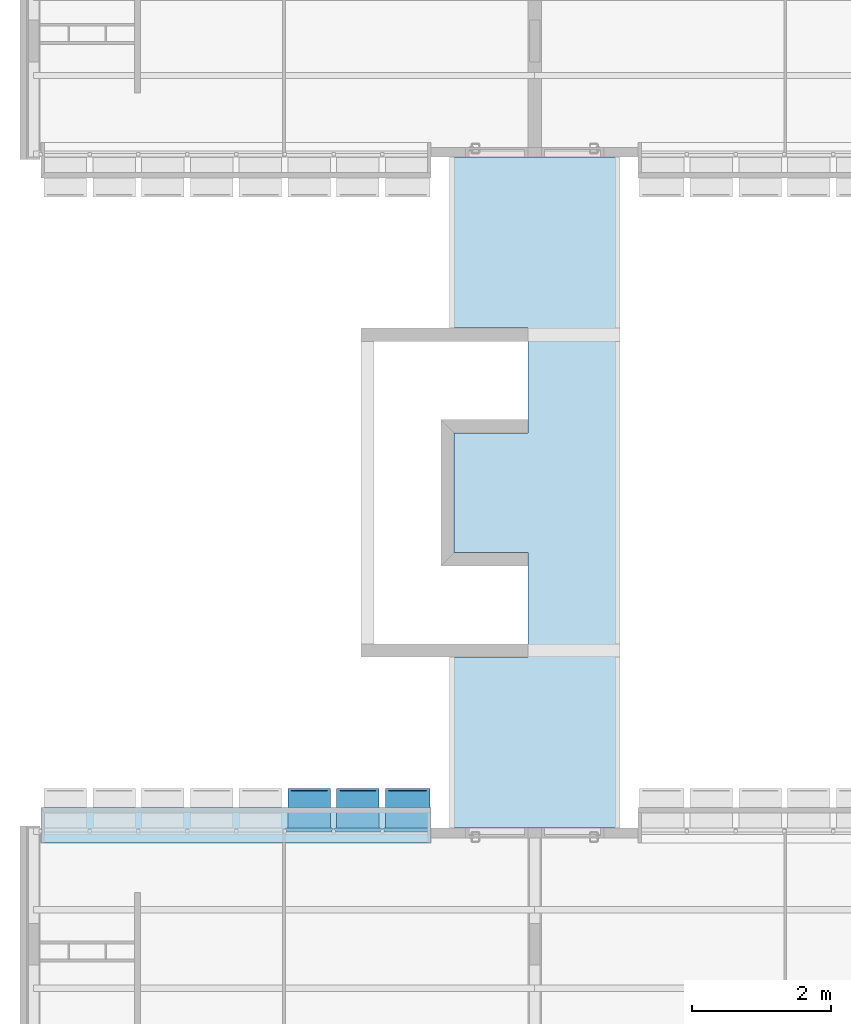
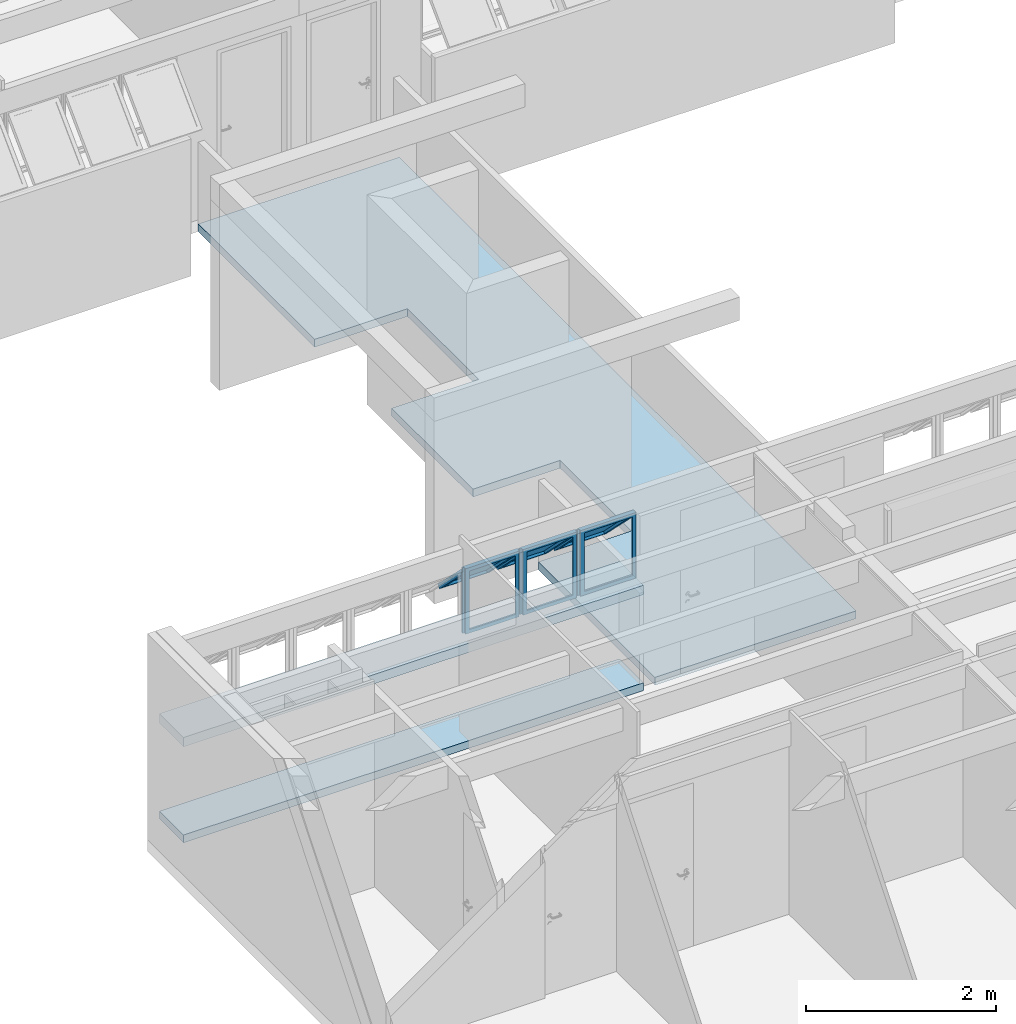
# One storey, part 8 of 40: 3 plates, 3 slabs, 1 element without a shape of its own.
"""IFC4 building model written with IfcOpenShell, lengths in millimetres."""

from ifc_helpers import new_model, entity, si_unit, converted_unit, derived_unit, direction, frame, origin_with_axes, place, context, subcontext, project, spatial, line, indexed_curve, outline, extrude, polygons, source, transform, mapped, material, layer, layer_set, layer_usage, constituent, constituent_set, type_object, element, aggregate, save


model = new_model("IFC4")

# Units and contexts
model_context = context("Model", 3, precision=0.01, world=origin_with_axes(), true_north=direction((0.0, 1.0)))
body_context = subcontext(model_context, "Body", "Model", "MODEL_VIEW")
ifc_project = project(units=[si_unit("LENGTHUNIT", "METRE", prefix="MILLI"), si_unit("AREAUNIT", "SQUARE_METRE"), si_unit("VOLUMEUNIT", "CUBIC_METRE"), converted_unit("PLANEANGLEUNIT", "DEGREE", entity("IfcPlaneAngleMeasure", 0.0174532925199), si_unit("PLANEANGLEUNIT", "RADIAN"), dimensions=[0, 0, 0, 0, 0, 0, 0]), converted_unit("TIMEUNIT", "Year", entity("IfcTimeMeasure", 31556926.0), si_unit("TIMEUNIT", "SECOND"), dimensions=[0, 0, 1, 0, 0, 0, 0]), si_unit("MASSUNIT", "GRAM", prefix="KILO"), si_unit("THERMODYNAMICTEMPERATUREUNIT", "DEGREE_CELSIUS"), si_unit("LUMINOUSINTENSITYUNIT", "LUMEN"), si_unit("ENERGYUNIT", "JOULE", prefix="MEGA"), derived_unit("THERMALCONDUCTANCEUNIT", [(si_unit("POWERUNIT", "WATT"), 1), (si_unit("LENGTHUNIT", "METRE"), -1), (si_unit("THERMODYNAMICTEMPERATUREUNIT", "KELVIN"), -1)]), derived_unit("SPECIFICHEATCAPACITYUNIT", [(si_unit("ENERGYUNIT", "JOULE"), 1), (si_unit("MASSUNIT", "GRAM", prefix="KILO"), -1), (si_unit("THERMODYNAMICTEMPERATUREUNIT", "KELVIN"), -1)]), derived_unit("MASSDENSITYUNIT", [(si_unit("MASSUNIT", "GRAM", prefix="KILO"), 1), (si_unit("VOLUMEUNIT", "CUBIC_METRE"), -1)])], contexts=[model_context])

# Site, building, storey
site_placement = place(None, origin_with_axes())
site = spatial("IfcSite", under=ifc_project, at=site_placement, Name="Local", CompositionType="ELEMENT")
building_placement = place(site_placement, origin_with_axes())
building = spatial("IfcBuilding", under=site, at=building_placement, Name="Construção", CompositionType="ELEMENT")
storey_placement = place(building_placement, frame((0.0, 0.0, 5300.0), z_axis=(0.0, 0.0, 1.0), x_axis=(1.0, 0.0, 0.0)))
storey = spatial("IfcBuildingStorey", under=building, at=storey_placement, Name="Terceiro Pavimento", CompositionType="ELEMENT", Elevation=5300.0)

# Slabs
ifc_material_1 = material(Name="Concreto Armado Moldado in Loco - Estrutural")
ifc_layer_1 = layer(ifc_material_1, 120.0, ventilated="UNKNOWN", Name="Concreto Armado Moldado in Loco - Estrutural")
ifc_layer_set_1 = layer_set([ifc_layer_1], Name="Concreto Armado Moldado in Loco - Estrutural 120")
ifc_layer_usage_1 = layer_usage(ifc_layer_set_1, "AXIS3", "NEGATIVE", 120.0)
slab_type_1 = type_object("IfcSlabType", Name="Concreto Armado Moldado in Loco - Estrutural 120", PredefinedType="FLOOR")
slab_1_placement = place(storey_placement, frame((300.0, 8564.99999866, 1355.0), z_axis=(0.0, 0.0, 1.0), x_axis=(1.0, 0.0, 0.0)))
element("IfcSlab", 1, at=slab_1_placement, inside=storey, type_object=slab_type_1, material=ifc_layer_usage_1, Name="APTO9-LAJE-003", PredefinedType="FLOOR", context=body_context, shape_type="SweptSolid", body=[
    extrude(outline(indexed_curve([(0.0, 0.0), (0.0, -510.0), (5600.0, -510.0), (5600.0, 0.0)], segments=[line(1, 2, 3, 4, 1)])), frame((0.0, 0.0, -120.0), z_axis=(0.0, 0.0, 1.0), x_axis=(1.0, 0.0, 0.0)), (0.0, 0.0, 1.0), 120.0),
])
ifc_layer_2 = layer(ifc_material_1, 100.0, ventilated="UNKNOWN", Name="Concreto Armado Moldado in Loco - Estrutural")
ifc_layer_set_2 = layer_set([ifc_layer_2], Name="Concreto Armado Moldado in Loco - Estrutural 100")
ifc_layer_usage_2 = layer_usage(ifc_layer_set_2, "AXIS3", "NEGATIVE", 100.0)
slab_type_2 = type_object("IfcSlabType", Name="Concreto Armado Moldado in Loco - Estrutural 100", PredefinedType="FLOOR")
slab_2_placement = place(storey_placement, frame((6229.99993205, 13940.0000635, -150.0), z_axis=(0.0, 0.0, 1.0), x_axis=(1.0, 0.0, 0.0)))
element("IfcSlab", 2, at=slab_2_placement, inside=storey, type_object=slab_type_2, material=ifc_layer_usage_2, Name="CIRC3-LAJE-008", PredefinedType="FLOOR", context=body_context, shape_type="SweptSolid", body=[
    extrude(outline(indexed_curve([(0.0, 0.0), (0.0, -1720.00012696), (1060.0001283, -1720.00012696), (1060.0001283, -3220.00011086), (-69.9999320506, -3220.00011086), (-69.9999320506, -5675.00006348), (2380.00006795, -5675.00006348), (2380.00006795, 3954.99993652), (-69.9999320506, 3954.99993652), (-69.9999320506, 1499.99998391), (1060.0001283, 1499.99998391), (1060.0001283, 1309.99988645), (1060.0001283, 0.0)], segments=[line(1, 2, 3, 4, 5, 6, 7, 8, 9, 10, 11, 12, 13, 1)])), origin_with_axes(), (0.0, 0.0, 1.0), 100.0),
])
ifc_layer_usage_3 = layer_usage(ifc_layer_set_2, "AXIS3", "NEGATIVE", 100.0)
slab_3_placement = place(storey_placement, frame((300.0, 8564.99999866, 100.0), z_axis=(0.0, 0.0, 1.0), x_axis=(1.0, 0.0, 0.0)))
element("IfcSlab", 3, at=slab_3_placement, inside=storey, type_object=slab_type_2, material=ifc_layer_usage_3, Name="APTO9-LAJE-004", PredefinedType="FLOOR", context=body_context, shape_type="SweptSolid", body=[
    extrude(outline(indexed_curve([(0.0, 0.0), (0.0, -510.0), (5600.0, -510.0), (5600.0, 0.0)], segments=[line(1, 2, 3, 4, 1)])), frame((0.0, 0.0, -100.0), z_axis=(0.0, 0.0, 1.0), x_axis=(1.0, 0.0, 0.0)), (0.0, 0.0, 1.0), 100.0),
])

# Window, plates
window_type = type_object("IfcWindowType", Name="Tipo de Parede Cortina", PartitioningType="NOTDEFINED", PredefinedType="NOTDEFINED")
window_placement = place(storey_placement, frame((2750.0, 8250.0, 1355.00007107), z_axis=(0.0, 0.0, 1.0), x_axis=(1.0, 0.0, 0.0)))
window = element("IfcWindow", 4, at=window_placement, inside=storey, type_object=window_type, Name="APTO9-JANELA-000", PredefinedType="NOTDEFINED")
ifc_material_2 = material(Name="Alumínio")
ifc_constituent_1 = constituent(ifc_material_2, Name="Alumínio")
ifc_material_3 = material(Name="Vidro")
ifc_constituent_2 = constituent(ifc_material_3, Name="Vidro")
ifc_constituent_set_1 = constituent_set(constituents=[ifc_constituent_1, ifc_constituent_2])
plate_type_1 = type_object("IfcPlateType", Name="Painel Principal 690 x 845 x 20", PredefinedType="CURTAIN_PANEL")
shared_shape_1 = source(origin_with_axes(), body_context, "Body", "Tessellation", [
    polygons([(-25.0000036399, 0.0, -40.0), (-25.0000036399, 0.0, -35.0), (-674.999997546, 0.0, -35.0), (-674.999997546, 0.0, -40.0), (-70.0000036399, 45.0, -40.0), (-70.0000036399, 45.0, -35.0), (-629.999997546, 45.0, -35.0), (-629.999997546, 45.0, -40.0)], [[[1, 2, 3, 4]], [[5, 6, 2, 1]], [[2, 6, 7, 3]], [[4, 3, 7, 8]], [[1, 4, 8, 5]], [[8, 7, 6, 5]]], closed=True),
    polygons([(-674.999997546, 0.0, -40.0), (-674.999997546, 0.0, -35.0), (-674.999997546, 844.999891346, -35.0), (-674.999997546, 844.999891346, -40.0), (-629.999997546, 45.0, -40.0), (-629.999997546, 45.0, -35.0), (-629.999997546, 799.999891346, -35.0), (-629.999997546, 799.999891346, -40.0)], [[[1, 2, 3, 4]], [[5, 6, 2, 1]], [[2, 6, 7, 3]], [[4, 3, 7, 8]], [[1, 4, 8, 5]], [[8, 7, 6, 5]]], closed=True),
    polygons([(-25.0000036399, 844.999891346, -40.0), (-25.0000036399, 844.999891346, -35.0), (-70.0000036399, 799.999891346, -35.0), (-70.0000036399, 799.999891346, -40.0), (-674.999997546, 844.999891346, -40.0), (-674.999997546, 844.999891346, -35.0), (-629.999997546, 799.999891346, -35.0), (-629.999997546, 799.999891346, -40.0)], [[[1, 2, 3, 4]], [[5, 6, 2, 1]], [[2, 6, 7, 3]], [[4, 3, 7, 8]], [[1, 4, 8, 5]], [[8, 7, 6, 5]]], closed=True),
    polygons([(-25.0000036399, 0.0, -40.0), (-25.0000036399, 0.0, -35.0), (-70.0000036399, 45.0, -35.0), (-70.0000036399, 45.0, -40.0), (-25.0000036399, 844.999891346, -40.0), (-25.0000036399, 844.999891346, -35.0), (-70.0000036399, 799.999891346, -35.0), (-70.0000036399, 799.999891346, -40.0)], [[[1, 2, 3, 4]], [[5, 6, 2, 1]], [[2, 6, 7, 3]], [[4, 3, 7, 8]], [[1, 4, 8, 5]], [[8, 7, 6, 5]]], closed=True),
    polygons([(-25.0000036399, 0.0, -35.0), (-25.0000036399, 0.0, 15.0), (-674.999997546, 0.0, 15.0), (-674.999997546, 0.0, -35.0), (-45.0000036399, 20.0, -35.0), (-45.0000036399, 20.0, 15.0), (-654.999997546, 20.0, 15.0), (-654.999997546, 20.0, -35.0)], [[[1, 2, 3, 4]], [[5, 6, 2, 1]], [[2, 6, 7, 3]], [[4, 3, 7, 8]], [[1, 4, 8, 5]], [[8, 7, 6, 5]]], closed=True),
    polygons([(-674.999997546, 0.0, -35.0), (-674.999997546, 0.0, 15.0), (-674.999997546, 844.999891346, 15.0), (-674.999997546, 844.999891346, -35.0), (-654.999997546, 20.0, -35.0), (-654.999997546, 20.0, 15.0), (-654.999997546, 824.999891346, 15.0), (-654.999997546, 824.999891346, -35.0)], [[[1, 2, 3, 4]], [[5, 6, 2, 1]], [[2, 6, 7, 3]], [[4, 3, 7, 8]], [[1, 4, 8, 5]], [[8, 7, 6, 5]]], closed=True),
    polygons([(-25.0000036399, 844.999891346, -35.0), (-25.0000036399, 844.999891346, 15.0), (-45.0000036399, 824.999891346, 15.0), (-45.0000036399, 824.999891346, -35.0), (-674.999997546, 844.999891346, -35.0), (-674.999997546, 844.999891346, 15.0), (-654.999997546, 824.999891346, 15.0), (-654.999997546, 824.999891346, -35.0)], [[[1, 2, 3, 4]], [[5, 6, 2, 1]], [[2, 6, 7, 3]], [[4, 3, 7, 8]], [[1, 4, 8, 5]], [[8, 7, 6, 5]]], closed=True),
    polygons([(-25.0000036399, 0.0, -35.0), (-25.0000036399, 0.0, 15.0), (-45.0000036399, 20.0, 15.0), (-45.0000036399, 20.0, -35.0), (-25.0000036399, 844.999891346, -35.0), (-25.0000036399, 844.999891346, 15.0), (-45.0000036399, 824.999891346, 15.0), (-45.0000036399, 824.999891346, -35.0)], [[[1, 2, 3, 4]], [[5, 6, 2, 1]], [[2, 6, 7, 3]], [[4, 3, 7, 8]], [[1, 4, 8, 5]], [[8, 7, 6, 5]]], closed=True),
    polygons([(-694.999995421, 0.0, -10.0), (-694.999995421, 0.0, 10.0), (-694.999995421, 844.999891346, 10.0), (-694.999995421, 844.999891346, -10.0), (-674.999997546, 0.0, -10.0), (-674.999997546, 0.0, 10.0), (-674.999997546, 844.999891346, 10.0), (-674.999997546, 844.999891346, -10.0)], [[[1, 2, 3, 4]], [[5, 6, 2, 1]], [[2, 6, 7, 3]], [[4, 3, 7, 8]], [[1, 4, 8, 5]], [[8, 7, 6, 5]]], closed=True),
    polygons([(-5.00000576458, 844.999891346, -10.0), (-5.00000576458, 844.999891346, 10.0), (-5.00000576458, 0.0, 10.0), (-5.00000576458, 0.0, -10.0), (-25.0000036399, 844.999891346, -10.0), (-25.0000036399, 844.999891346, 10.0), (-25.0000036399, 0.0, 10.0), (-25.0000036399, 0.0, -10.0)], [[[1, 2, 3, 4]], [[5, 6, 2, 1]], [[2, 6, 7, 3]], [[4, 3, 7, 8]], [[1, 4, 8, 5]], [[8, 7, 6, 5]]], closed=True),
    polygons([(-90.0000036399, 252.243475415, 517.045737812), (-90.0000036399, 291.13434838, 555.936610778), (-90.0000036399, 796.715620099, 50.3553390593), (-90.0000036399, 757.824747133, 11.4644660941), (-45.0000036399, 220.423670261, 548.865542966), (-45.0000036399, 259.314543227, 587.756415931), (-45.0000036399, 828.535425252, 18.5355339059), (-45.0000036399, 789.644552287, -20.3553390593)], [[[1, 2, 3, 4]], [[5, 6, 2, 1]], [[2, 6, 7, 3]], [[4, 3, 7, 8]], [[1, 4, 8, 5]], [[8, 7, 6, 5]]], closed=True),
    polygons([(-654.999997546, 220.423670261, 548.865542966), (-654.999997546, 259.314543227, 587.756415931), (-654.999997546, 828.535425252, 18.5355339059), (-654.999997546, 789.644552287, -20.3553390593), (-609.999997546, 252.243475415, 517.045737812), (-609.999997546, 291.13434838, 555.936610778), (-609.999997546, 796.715620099, 50.3553390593), (-609.999997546, 757.824747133, 11.4644660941)], [[[1, 2, 3, 4]], [[5, 6, 2, 1]], [[2, 6, 7, 3]], [[4, 3, 7, 8]], [[1, 4, 8, 5]], [[8, 7, 6, 5]]], closed=True),
    polygons([(-654.999997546, 220.423670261, 548.865542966), (-654.999997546, 259.314543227, 587.756415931), (-609.999997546, 291.13434838, 555.936610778), (-609.999997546, 252.243475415, 517.045737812), (-45.0000036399, 220.423670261, 548.865542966), (-45.0000036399, 259.314543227, 587.756415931), (-90.0000036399, 291.13434838, 555.936610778), (-90.0000036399, 252.243475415, 517.045737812)], [[[1, 2, 3, 4]], [[5, 6, 2, 1]], [[2, 6, 7, 3]], [[4, 3, 7, 8]], [[1, 4, 8, 5]], [[8, 7, 6, 5]]], closed=True),
    polygons([(-45.0000036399, 789.644552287, -20.3553390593), (-45.0000036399, 828.535425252, 18.5355339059), (-90.0000036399, 796.715620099, 50.3553390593), (-90.0000036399, 757.824747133, 11.4644660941), (-654.999997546, 789.644552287, -20.3553390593), (-654.999997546, 828.535425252, 18.5355339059), (-609.999997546, 796.715620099, 50.3553390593), (-609.999997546, 757.824747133, 11.4644660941)], [[[1, 2, 3, 4]], [[5, 6, 2, 1]], [[2, 6, 7, 3]], [[4, 3, 7, 8]], [[1, 4, 8, 5]], [[8, 7, 6, 5]]], closed=True),
    polygons([(-90.0000036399, 272.749572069, 537.551834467), (-90.0000036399, 284.063280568, 548.865542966), (-609.999997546, 284.063280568, 548.865542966), (-609.999997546, 272.749572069, 537.551834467), (-90.0000036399, 778.330843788, 31.9705627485), (-90.0000036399, 789.644552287, 43.2842712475), (-609.999997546, 789.644552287, 43.2842712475), (-609.999997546, 778.330843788, 31.9705627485)], [[[1, 2, 3, 4]], [[5, 6, 2, 1]], [[2, 6, 7, 3]], [[4, 3, 7, 8]], [[1, 4, 8, 5]], [[8, 7, 6, 5]]], closed=True),
])
plate_1_placement = place(window_placement, frame((2100.0, 0.0, 422.499964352), z_axis=(0.0, 0.0, 1.0), x_axis=(-1.0, 0.0, 0.0)))
plate_1 = element("IfcPlate", 5, at=plate_1_placement, type_object=plate_type_1, material=ifc_constituent_set_1, Name="APTO9-Painel-Prin-029", PredefinedType="CURTAIN_PANEL", context=body_context, shape_type="MappedRepresentation", body=[
    mapped(shared_shape_1, transform((350.0, 0.0, -422.499964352), x_axis=(1.0, 0.0, 0.0), y_axis=(0.0, 0.0, 1.0), z_axis=(0.0, -1.0, 0.0))),
])
ifc_constituent_3 = constituent(ifc_material_2, Name="Alumínio")
ifc_constituent_4 = constituent(ifc_material_3, Name="Vidro")
ifc_constituent_set_2 = constituent_set(constituents=[ifc_constituent_3, ifc_constituent_4])
shared_shape_2 = source(origin_with_axes(), body_context, "Body", "Tessellation", [
    polygons([(-25.0000036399, 0.0, -40.0), (-25.0000036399, 0.0, -35.0), (-674.999997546, 0.0, -35.0), (-674.999997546, 0.0, -40.0), (-70.0000036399, 45.0, -40.0), (-70.0000036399, 45.0, -35.0), (-629.999997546, 45.0, -35.0), (-629.999997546, 45.0, -40.0)], [[[1, 2, 3, 4]], [[5, 6, 2, 1]], [[2, 6, 7, 3]], [[4, 3, 7, 8]], [[1, 4, 8, 5]], [[8, 7, 6, 5]]], closed=True),
    polygons([(-674.999997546, 0.0, -40.0), (-674.999997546, 0.0, -35.0), (-674.999997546, 844.999891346, -35.0), (-674.999997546, 844.999891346, -40.0), (-629.999997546, 45.0, -40.0), (-629.999997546, 45.0, -35.0), (-629.999997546, 799.999891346, -35.0), (-629.999997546, 799.999891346, -40.0)], [[[1, 2, 3, 4]], [[5, 6, 2, 1]], [[2, 6, 7, 3]], [[4, 3, 7, 8]], [[1, 4, 8, 5]], [[8, 7, 6, 5]]], closed=True),
    polygons([(-25.0000036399, 844.999891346, -40.0), (-25.0000036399, 844.999891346, -35.0), (-70.0000036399, 799.999891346, -35.0), (-70.0000036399, 799.999891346, -40.0), (-674.999997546, 844.999891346, -40.0), (-674.999997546, 844.999891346, -35.0), (-629.999997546, 799.999891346, -35.0), (-629.999997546, 799.999891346, -40.0)], [[[1, 2, 3, 4]], [[5, 6, 2, 1]], [[2, 6, 7, 3]], [[4, 3, 7, 8]], [[1, 4, 8, 5]], [[8, 7, 6, 5]]], closed=True),
    polygons([(-25.0000036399, 0.0, -40.0), (-25.0000036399, 0.0, -35.0), (-70.0000036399, 45.0, -35.0), (-70.0000036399, 45.0, -40.0), (-25.0000036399, 844.999891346, -40.0), (-25.0000036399, 844.999891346, -35.0), (-70.0000036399, 799.999891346, -35.0), (-70.0000036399, 799.999891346, -40.0)], [[[1, 2, 3, 4]], [[5, 6, 2, 1]], [[2, 6, 7, 3]], [[4, 3, 7, 8]], [[1, 4, 8, 5]], [[8, 7, 6, 5]]], closed=True),
    polygons([(-25.0000036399, 0.0, -35.0), (-25.0000036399, 0.0, 15.0), (-674.999997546, 0.0, 15.0), (-674.999997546, 0.0, -35.0), (-45.0000036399, 20.0, -35.0), (-45.0000036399, 20.0, 15.0), (-654.999997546, 20.0, 15.0), (-654.999997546, 20.0, -35.0)], [[[1, 2, 3, 4]], [[5, 6, 2, 1]], [[2, 6, 7, 3]], [[4, 3, 7, 8]], [[1, 4, 8, 5]], [[8, 7, 6, 5]]], closed=True),
    polygons([(-674.999997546, 0.0, -35.0), (-674.999997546, 0.0, 15.0), (-674.999997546, 844.999891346, 15.0), (-674.999997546, 844.999891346, -35.0), (-654.999997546, 20.0, -35.0), (-654.999997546, 20.0, 15.0), (-654.999997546, 824.999891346, 15.0), (-654.999997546, 824.999891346, -35.0)], [[[1, 2, 3, 4]], [[5, 6, 2, 1]], [[2, 6, 7, 3]], [[4, 3, 7, 8]], [[1, 4, 8, 5]], [[8, 7, 6, 5]]], closed=True),
    polygons([(-25.0000036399, 844.999891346, -35.0), (-25.0000036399, 844.999891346, 15.0), (-45.0000036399, 824.999891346, 15.0), (-45.0000036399, 824.999891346, -35.0), (-674.999997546, 844.999891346, -35.0), (-674.999997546, 844.999891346, 15.0), (-654.999997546, 824.999891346, 15.0), (-654.999997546, 824.999891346, -35.0)], [[[1, 2, 3, 4]], [[5, 6, 2, 1]], [[2, 6, 7, 3]], [[4, 3, 7, 8]], [[1, 4, 8, 5]], [[8, 7, 6, 5]]], closed=True),
    polygons([(-25.0000036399, 0.0, -35.0), (-25.0000036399, 0.0, 15.0), (-45.0000036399, 20.0, 15.0), (-45.0000036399, 20.0, -35.0), (-25.0000036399, 844.999891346, -35.0), (-25.0000036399, 844.999891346, 15.0), (-45.0000036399, 824.999891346, 15.0), (-45.0000036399, 824.999891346, -35.0)], [[[1, 2, 3, 4]], [[5, 6, 2, 1]], [[2, 6, 7, 3]], [[4, 3, 7, 8]], [[1, 4, 8, 5]], [[8, 7, 6, 5]]], closed=True),
    polygons([(-694.999995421, 0.0, -10.0), (-694.999995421, 0.0, 10.0), (-694.999995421, 844.999891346, 10.0), (-694.999995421, 844.999891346, -10.0), (-674.999997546, 0.0, -10.0), (-674.999997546, 0.0, 10.0), (-674.999997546, 844.999891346, 10.0), (-674.999997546, 844.999891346, -10.0)], [[[1, 2, 3, 4]], [[5, 6, 2, 1]], [[2, 6, 7, 3]], [[4, 3, 7, 8]], [[1, 4, 8, 5]], [[8, 7, 6, 5]]], closed=True),
    polygons([(-5.00000576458, 844.999891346, -10.0), (-5.00000576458, 844.999891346, 10.0), (-5.00000576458, 0.0, 10.0), (-5.00000576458, 0.0, -10.0), (-25.0000036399, 844.999891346, -10.0), (-25.0000036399, 844.999891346, 10.0), (-25.0000036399, 0.0, 10.0), (-25.0000036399, 0.0, -10.0)], [[[1, 2, 3, 4]], [[5, 6, 2, 1]], [[2, 6, 7, 3]], [[4, 3, 7, 8]], [[1, 4, 8, 5]], [[8, 7, 6, 5]]], closed=True),
    polygons([(-90.0000036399, 252.243475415, 517.045737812), (-90.0000036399, 291.13434838, 555.936610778), (-90.0000036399, 796.715620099, 50.3553390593), (-90.0000036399, 757.824747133, 11.4644660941), (-45.0000036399, 220.423670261, 548.865542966), (-45.0000036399, 259.314543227, 587.756415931), (-45.0000036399, 828.535425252, 18.5355339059), (-45.0000036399, 789.644552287, -20.3553390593)], [[[1, 2, 3, 4]], [[5, 6, 2, 1]], [[2, 6, 7, 3]], [[4, 3, 7, 8]], [[1, 4, 8, 5]], [[8, 7, 6, 5]]], closed=True),
    polygons([(-654.999997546, 220.423670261, 548.865542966), (-654.999997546, 259.314543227, 587.756415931), (-654.999997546, 828.535425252, 18.5355339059), (-654.999997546, 789.644552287, -20.3553390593), (-609.999997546, 252.243475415, 517.045737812), (-609.999997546, 291.13434838, 555.936610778), (-609.999997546, 796.715620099, 50.3553390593), (-609.999997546, 757.824747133, 11.4644660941)], [[[1, 2, 3, 4]], [[5, 6, 2, 1]], [[2, 6, 7, 3]], [[4, 3, 7, 8]], [[1, 4, 8, 5]], [[8, 7, 6, 5]]], closed=True),
    polygons([(-654.999997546, 220.423670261, 548.865542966), (-654.999997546, 259.314543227, 587.756415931), (-609.999997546, 291.13434838, 555.936610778), (-609.999997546, 252.243475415, 517.045737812), (-45.0000036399, 220.423670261, 548.865542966), (-45.0000036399, 259.314543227, 587.756415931), (-90.0000036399, 291.13434838, 555.936610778), (-90.0000036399, 252.243475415, 517.045737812)], [[[1, 2, 3, 4]], [[5, 6, 2, 1]], [[2, 6, 7, 3]], [[4, 3, 7, 8]], [[1, 4, 8, 5]], [[8, 7, 6, 5]]], closed=True),
    polygons([(-45.0000036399, 789.644552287, -20.3553390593), (-45.0000036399, 828.535425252, 18.5355339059), (-90.0000036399, 796.715620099, 50.3553390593), (-90.0000036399, 757.824747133, 11.4644660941), (-654.999997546, 789.644552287, -20.3553390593), (-654.999997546, 828.535425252, 18.5355339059), (-609.999997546, 796.715620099, 50.3553390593), (-609.999997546, 757.824747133, 11.4644660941)], [[[1, 2, 3, 4]], [[5, 6, 2, 1]], [[2, 6, 7, 3]], [[4, 3, 7, 8]], [[1, 4, 8, 5]], [[8, 7, 6, 5]]], closed=True),
    polygons([(-90.0000036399, 272.749572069, 537.551834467), (-90.0000036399, 284.063280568, 548.865542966), (-609.999997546, 284.063280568, 548.865542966), (-609.999997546, 272.749572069, 537.551834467), (-90.0000036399, 778.330843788, 31.9705627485), (-90.0000036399, 789.644552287, 43.2842712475), (-609.999997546, 789.644552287, 43.2842712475), (-609.999997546, 778.330843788, 31.9705627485)], [[[1, 2, 3, 4]], [[5, 6, 2, 1]], [[2, 6, 7, 3]], [[4, 3, 7, 8]], [[1, 4, 8, 5]], [[8, 7, 6, 5]]], closed=True),
])
plate_2_placement = place(window_placement, frame((1400.0, 0.0, 422.499964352), z_axis=(0.0, 0.0, 1.0), x_axis=(-1.0, 0.0, 0.0)))
plate_2 = element("IfcPlate", 6, at=plate_2_placement, type_object=plate_type_1, material=ifc_constituent_set_2, Name="APTO9-Painel-Prin-025", PredefinedType="CURTAIN_PANEL", context=body_context, shape_type="MappedRepresentation", body=[
    mapped(shared_shape_2, transform((350.0, 0.0, -422.499964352), x_axis=(1.0, 0.0, 0.0), y_axis=(0.0, 0.0, 1.0), z_axis=(0.0, -1.0, 0.0))),
])
ifc_constituent_5 = constituent(ifc_material_2, Name="Alumínio")
ifc_constituent_6 = constituent(ifc_material_3, Name="Vidro")
ifc_constituent_set_3 = constituent_set(constituents=[ifc_constituent_5, ifc_constituent_6])
plate_type_2 = type_object("IfcPlateType", Name="Painel Principal 695 x 845 x 20", PredefinedType="CURTAIN_PANEL")
shared_shape_3 = source(origin_with_axes(), body_context, "Body", "Tessellation", [
    polygons([(-25.0000062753, 0.0, -40.0), (-25.0000062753, 0.0, -35.0), (-699.999999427, 0.0, -35.0), (-699.999999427, 0.0, -40.0), (-70.0000062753, 45.0, -40.0), (-70.0000062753, 45.0, -35.0), (-654.999999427, 45.0, -35.0), (-654.999999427, 45.0, -40.0)], [[[1, 2, 3, 4]], [[5, 6, 2, 1]], [[2, 6, 7, 3]], [[4, 3, 7, 8]], [[1, 4, 8, 5]], [[8, 7, 6, 5]]], closed=True),
    polygons([(-699.999999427, 0.0, -40.0), (-699.999999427, 0.0, -35.0), (-699.999999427, 844.999980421, -35.0), (-699.999999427, 844.999980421, -40.0), (-654.999999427, 45.0, -40.0), (-654.999999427, 45.0, -35.0), (-654.999999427, 799.999980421, -35.0), (-654.999999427, 799.999980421, -40.0)], [[[1, 2, 3, 4]], [[5, 6, 2, 1]], [[2, 6, 7, 3]], [[4, 3, 7, 8]], [[1, 4, 8, 5]], [[8, 7, 6, 5]]], closed=True),
    polygons([(-25.0000062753, 844.999980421, -40.0), (-25.0000062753, 844.999980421, -35.0), (-70.0000062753, 799.999980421, -35.0), (-70.0000062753, 799.999980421, -40.0), (-699.999999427, 844.999980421, -40.0), (-699.999999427, 844.999980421, -35.0), (-654.999999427, 799.999980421, -35.0), (-654.999999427, 799.999980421, -40.0)], [[[1, 2, 3, 4]], [[5, 6, 2, 1]], [[2, 6, 7, 3]], [[4, 3, 7, 8]], [[1, 4, 8, 5]], [[8, 7, 6, 5]]], closed=True),
    polygons([(-25.0000062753, 0.0, -40.0), (-25.0000062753, 0.0, -35.0), (-70.0000062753, 45.0, -35.0), (-70.0000062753, 45.0, -40.0), (-25.0000062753, 844.999980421, -40.0), (-25.0000062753, 844.999980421, -35.0), (-70.0000062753, 799.999980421, -35.0), (-70.0000062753, 799.999980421, -40.0)], [[[1, 2, 3, 4]], [[5, 6, 2, 1]], [[2, 6, 7, 3]], [[4, 3, 7, 8]], [[1, 4, 8, 5]], [[8, 7, 6, 5]]], closed=True),
    polygons([(-25.0000062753, 0.0, -35.0), (-25.0000062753, 0.0, 15.0), (-699.999999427, 0.0, 15.0), (-699.999999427, 0.0, -35.0), (-45.0000062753, 20.0, -35.0), (-45.0000062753, 20.0, 15.0), (-679.999999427, 20.0, 15.0), (-679.999999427, 20.0, -35.0)], [[[1, 2, 3, 4]], [[5, 6, 2, 1]], [[2, 6, 7, 3]], [[4, 3, 7, 8]], [[1, 4, 8, 5]], [[8, 7, 6, 5]]], closed=True),
    polygons([(-699.999999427, 0.0, -35.0), (-699.999999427, 0.0, 15.0), (-699.999999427, 844.999980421, 15.0), (-699.999999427, 844.999980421, -35.0), (-679.999999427, 20.0, -35.0), (-679.999999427, 20.0, 15.0), (-679.999999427, 824.999980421, 15.0), (-679.999999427, 824.999980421, -35.0)], [[[1, 2, 3, 4]], [[5, 6, 2, 1]], [[2, 6, 7, 3]], [[4, 3, 7, 8]], [[1, 4, 8, 5]], [[8, 7, 6, 5]]], closed=True),
    polygons([(-25.0000062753, 844.999980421, -35.0), (-25.0000062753, 844.999980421, 15.0), (-45.0000062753, 824.999980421, 15.0), (-45.0000062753, 824.999980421, -35.0), (-699.999999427, 844.999980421, -35.0), (-699.999999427, 844.999980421, 15.0), (-679.999999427, 824.999980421, 15.0), (-679.999999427, 824.999980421, -35.0)], [[[1, 2, 3, 4]], [[5, 6, 2, 1]], [[2, 6, 7, 3]], [[4, 3, 7, 8]], [[1, 4, 8, 5]], [[8, 7, 6, 5]]], closed=True),
    polygons([(-25.0000062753, 0.0, -35.0), (-25.0000062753, 0.0, 15.0), (-45.0000062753, 20.0, 15.0), (-45.0000062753, 20.0, -35.0), (-25.0000062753, 844.999980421, -35.0), (-25.0000062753, 844.999980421, 15.0), (-45.0000062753, 824.999980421, 15.0), (-45.0000062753, 824.999980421, -35.0)], [[[1, 2, 3, 4]], [[5, 6, 2, 1]], [[2, 6, 7, 3]], [[4, 3, 7, 8]], [[1, 4, 8, 5]], [[8, 7, 6, 5]]], closed=True),
    polygons([(-5.00000629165, 844.999980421, -10.0), (-5.00000629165, 844.999980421, 10.0), (-5.00000629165, 0.0, 10.0), (-5.00000629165, 0.0, -10.0), (-25.0000062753, 844.999980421, -10.0), (-25.0000062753, 844.999980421, 10.0), (-25.0000062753, 0.0, 10.0), (-25.0000062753, 0.0, -10.0)], [[[1, 2, 3, 4]], [[5, 6, 2, 1]], [[2, 6, 7, 3]], [[4, 3, 7, 8]], [[1, 4, 8, 5]], [[8, 7, 6, 5]]], closed=True),
    polygons([(-90.0000062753, 252.243501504, 517.045800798), (-90.0000062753, 291.134374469, 555.936673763), (-90.0000062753, 796.715709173, 50.3553390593), (-90.0000062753, 757.824836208, 11.4644660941), (-45.0000062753, 220.423696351, 548.865605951), (-45.0000062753, 259.314569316, 587.756478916), (-45.0000062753, 828.535514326, 18.5355339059), (-45.0000062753, 789.644641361, -20.3553390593)], [[[1, 2, 3, 4]], [[5, 6, 2, 1]], [[2, 6, 7, 3]], [[4, 3, 7, 8]], [[1, 4, 8, 5]], [[8, 7, 6, 5]]], closed=True),
    polygons([(-679.999999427, 220.423696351, 548.865605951), (-679.999999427, 259.314569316, 587.756478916), (-679.999999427, 828.535514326, 18.5355339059), (-679.999999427, 789.644641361, -20.3553390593), (-634.999999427, 252.243501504, 517.045800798), (-634.999999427, 291.134374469, 555.936673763), (-634.999999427, 796.715709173, 50.3553390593), (-634.999999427, 757.824836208, 11.4644660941)], [[[1, 2, 3, 4]], [[5, 6, 2, 1]], [[2, 6, 7, 3]], [[4, 3, 7, 8]], [[1, 4, 8, 5]], [[8, 7, 6, 5]]], closed=True),
    polygons([(-679.999999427, 220.423696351, 548.865605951), (-679.999999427, 259.314569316, 587.756478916), (-634.999999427, 291.134374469, 555.936673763), (-634.999999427, 252.243501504, 517.045800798), (-45.0000062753, 220.423696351, 548.865605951), (-45.0000062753, 259.314569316, 587.756478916), (-90.0000062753, 291.134374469, 555.936673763), (-90.0000062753, 252.243501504, 517.045800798)], [[[1, 2, 3, 4]], [[5, 6, 2, 1]], [[2, 6, 7, 3]], [[4, 3, 7, 8]], [[1, 4, 8, 5]], [[8, 7, 6, 5]]], closed=True),
    polygons([(-45.0000062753, 789.644641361, -20.3553390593), (-45.0000062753, 828.535514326, 18.5355339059), (-90.0000062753, 796.715709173, 50.3553390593), (-90.0000062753, 757.824836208, 11.4644660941), (-679.999999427, 789.644641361, -20.3553390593), (-679.999999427, 828.535514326, 18.5355339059), (-634.999999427, 796.715709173, 50.3553390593), (-634.999999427, 757.824836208, 11.4644660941)], [[[1, 2, 3, 4]], [[5, 6, 2, 1]], [[2, 6, 7, 3]], [[4, 3, 7, 8]], [[1, 4, 8, 5]], [[8, 7, 6, 5]]], closed=True),
    polygons([(-90.0000062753, 272.749598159, 537.551897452), (-90.0000062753, 284.063306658, 548.865605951), (-634.999999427, 284.063306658, 548.865605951), (-634.999999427, 272.749598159, 537.551897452), (-90.0000062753, 778.330932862, 31.9705627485), (-90.0000062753, 789.644641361, 43.2842712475), (-634.999999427, 789.644641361, 43.2842712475), (-634.999999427, 778.330932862, 31.9705627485)], [[[1, 2, 3, 4]], [[5, 6, 2, 1]], [[2, 6, 7, 3]], [[4, 3, 7, 8]], [[1, 4, 8, 5]], [[8, 7, 6, 5]]], closed=True),
])
plate_3_placement = place(window_placement, frame((2800.0, 0.0, 422.499986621), z_axis=(0.0, 0.0, 1.0), x_axis=(-1.0, 0.0, 0.0)))
plate_3 = element("IfcPlate", 7, at=plate_3_placement, type_object=plate_type_2, material=ifc_constituent_set_3, Name="APTO9-Painel-Prin-020", PredefinedType="CURTAIN_PANEL", context=body_context, shape_type="MappedRepresentation", body=[
    mapped(shared_shape_3, transform((350.0, 0.0, -422.499986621), x_axis=(1.0, 0.0, 0.0), y_axis=(0.0, 0.0, 1.0), z_axis=(0.0, -1.0, 0.0))),
])
aggregate(window, [plate_1, plate_2, plate_3])

save(model, "model.ifc")
